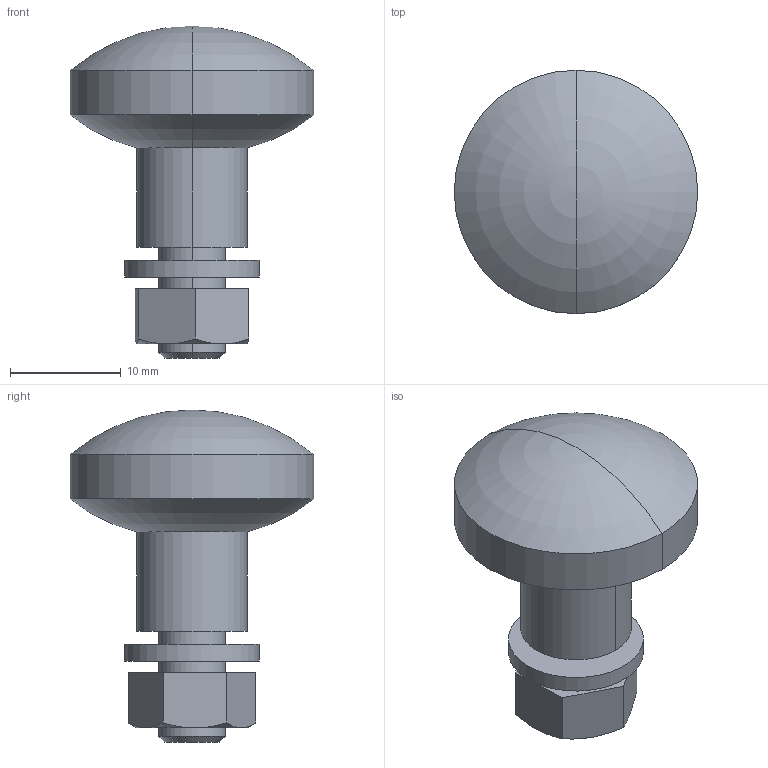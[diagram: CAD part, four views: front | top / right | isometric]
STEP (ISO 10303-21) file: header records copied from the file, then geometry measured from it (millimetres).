
FILE_DESCRIPTION (( 'STEP AP203' ), '1' );
FILE_NAME ('SCR-SB100.STEP', '2013-06-28T06:54:56', ( 'SDS' ), ( 'SDS' ), 'SwSTEP 2.0', 'SolidWorks 2002296', '' );
FILE_SCHEMA (( 'CONFIG_CONTROL_DESIGN' ));
Length unit declared in the file: millimetre
Products named in the file (4): SCR-SB100; SCR-SB100-1_蹬怮椔; 僗僾儕儞僌儚僢僔儍乕M6_棉太倌; 榋妏僫僢僩M6__棉太倌
Assembly tree (3 placements, depth 2):
  SCR-SB100
    SCR-SB100-1_蹬怮椔
    榋妏僫僢僩M6__棉太倌
    僗僾儕儞僌儚僢僔儍乕M6_棉太倌
Bounding box: 22 x 22 x 30 mm (x, y, z)
Volume: 4437.6 mm3; surface area: 2239.9 mm2
Topology: 3 solids, 3 shells, 37 faces, 78 edges, 46 vertices
Faces by surface type: plane 14, cylinder 10, cone 9, torus 4
Entity records: 1401 total; most frequent: CARTESIAN_POINT 201, DIRECTION 183, ORIENTED_EDGE 152, EDGE_CURVE 76, AXIS2_PLACEMENT_3D 76, VERTEX_POINT 46, EDGE_LOOP 40, ADVANCED_FACE 37
